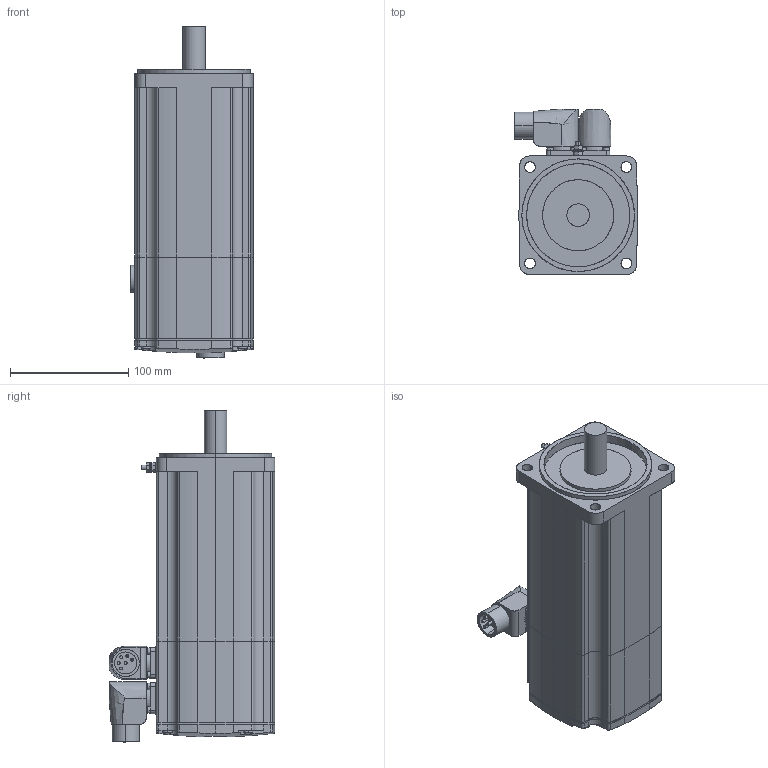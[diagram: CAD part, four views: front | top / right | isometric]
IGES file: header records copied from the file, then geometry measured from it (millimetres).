
Start section: SolidWorks IGES file using analytic representation for surfaces
Global section: file name: C:\PDM\SW-SAP\AA-IGES\SH31002x0xF2100.IGS; native system: SolidWorks 2010; preprocessor: SolidWorks 2010; author: SESA21951; date: 131129.100805; units: millimetre
Bounding box: 103.65 x 139.9 x 280.25 mm (x, y, z)
Surface area: 181791.7 mm2 (no closed solid volume)
Topology: 0 solids, 0 shells, 455 faces, 6774 edges, 6774 vertices
Faces by surface type: revolution 239, bspline 216
